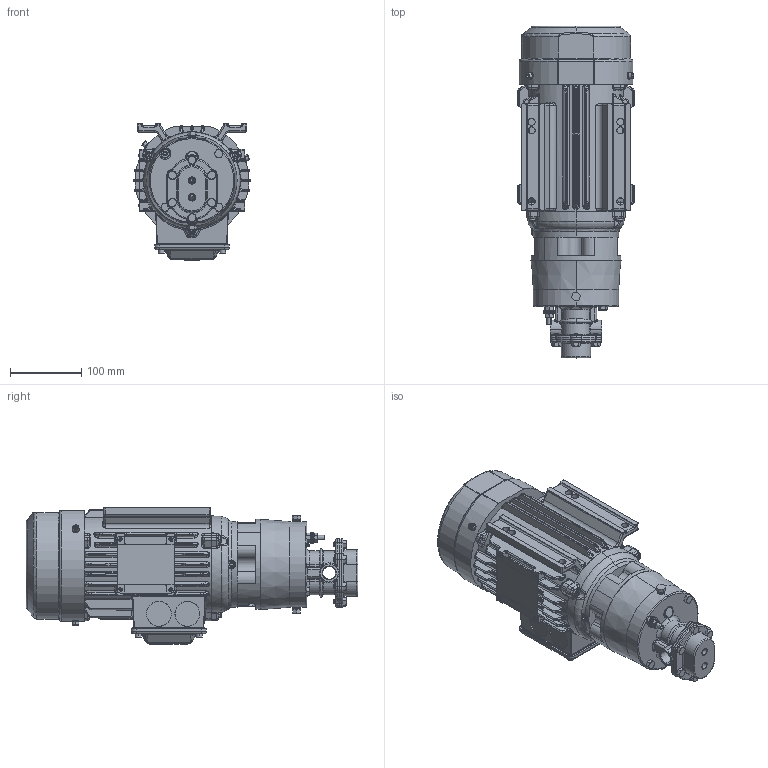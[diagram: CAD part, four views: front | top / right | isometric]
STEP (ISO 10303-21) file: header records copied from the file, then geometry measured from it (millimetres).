
FILE_DESCRIPTION (( 'STEP AP214' ), '1' );
FILE_NAME ('E05M FNPT 80F.STEP', '2025-03-05T15:48:21', ( '' ), ( '' ), 'SwSTEP 2.0', 'SolidWorks 2021', '' );
FILE_SCHEMA (( 'AUTOMOTIVE_DESIGN' ));
Length unit declared in the file: inch
Products named in the file (1): E05M FNPT 80F
Bounding box: 164 x 467.09 x 192 mm (x, y, z)
Volume: 5834260 mm3; surface area: 498594.7 mm2
Topology: 23 solids, 43 shells, 3379 faces, 8358 edges, 4962 vertices
Faces by surface type: cylinder 1255, plane 847, bspline 538, cone 328, torus 292, sphere 119
Entity records: 164943 total; most frequent: CARTESIAN_POINT 45149, ORIENTED_EDGE 16370, DIRECTION 15409, EDGE_CURVE 8185, AXIS2_PLACEMENT_3D 6174, VERTEX_POINT 4962, EDGE_LOOP 3591, LENGTH_MEASURE_WITH_UNIT 3404
